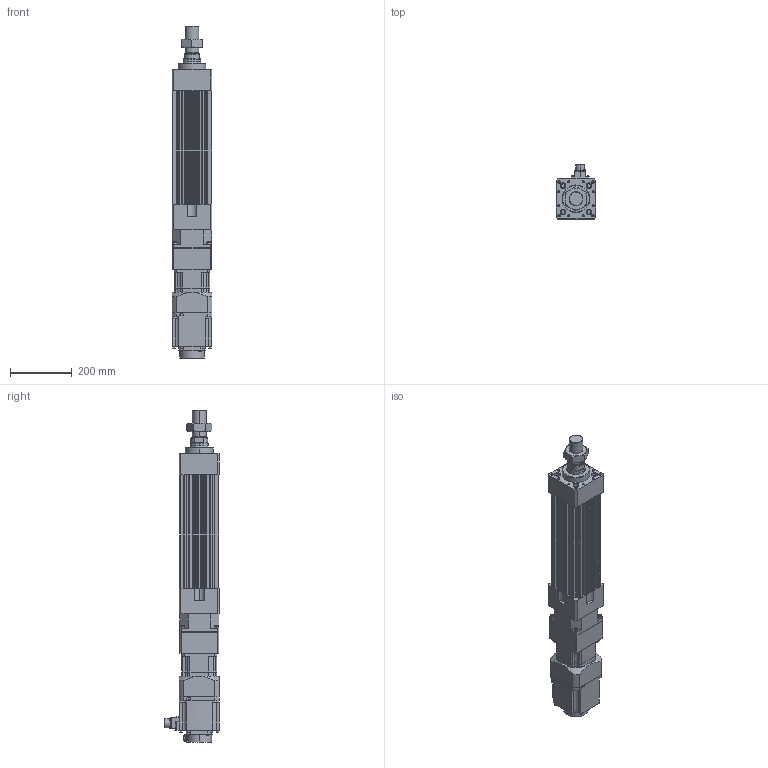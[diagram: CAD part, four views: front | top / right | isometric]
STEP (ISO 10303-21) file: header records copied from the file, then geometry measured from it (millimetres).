
FILE_DESCRIPTION (( 'STEP AP203' ), '1' );
FILE_NAME ('HES130NS(FS)(HS)-S150-W015G00-M.STEP', '2023-01-30T07:52:35', ( 'tms' ), ( '' ), 'SwSTEP 2.0', 'SolidWorks 2013', '' );
FILE_SCHEMA (( 'CONFIG_CONTROL_DESIGN' ));
Length unit declared in the file: millimetre
Products named in the file (8): HES130-S150-G120; P0401400706; M45X1.5P; AB1151; AB115-003[HG-SR152]; HES130 ROD M ST150; HES130NS(FS)(HS)-S150-W015G00-M; HG-SR152
Assembly tree (7 placements, depth 3):
  HES130NS(FS)(HS)-S150-W015G00-M
    HES130-S150-G120
    HES130 ROD M ST150
    M45X1.5P
    AB115-003[HG-SR152]
      AB1151
      P0401400706
    HG-SR152
Bounding box: 130 x 177.49 x 1079.5 mm (x, y, z)
Volume: 8349779.8 mm3; surface area: 1023564.6 mm2
Topology: 4 solids, 15 shells, 1220 faces, 3076 edges, 1983 vertices
Faces by surface type: cylinder 553, plane 551, cone 104, bspline 8, torus 4
Entity records: 38254 total; most frequent: CARTESIAN_POINT 7242, DIRECTION 6653, ORIENTED_EDGE 6060, EDGE_CURVE 3040, AXIS2_PLACEMENT_3D 2462, VERTEX_POINT 1983, LINE 1729, VECTOR 1729
